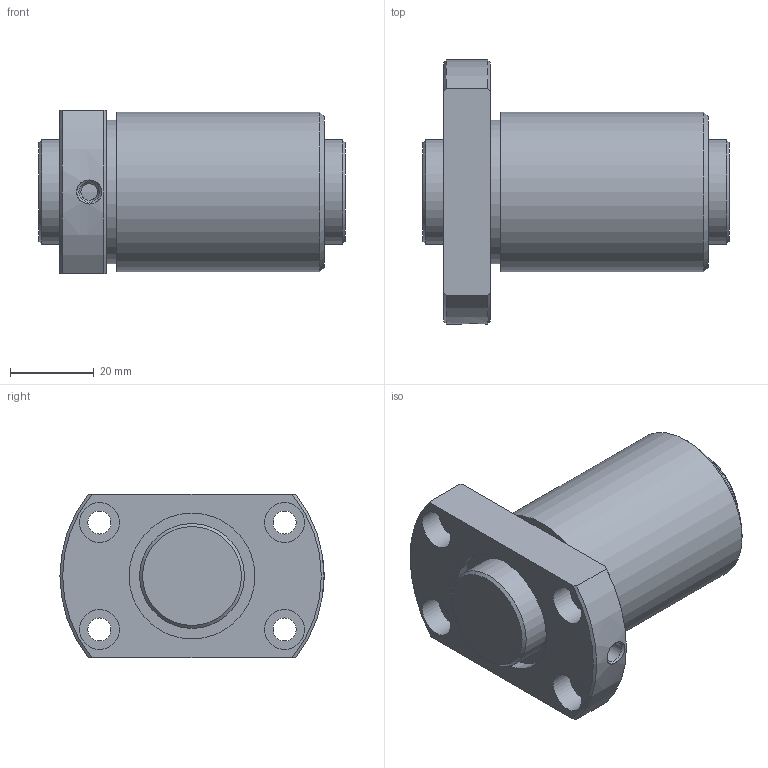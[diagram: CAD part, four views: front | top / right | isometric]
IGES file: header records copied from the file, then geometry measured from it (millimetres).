
Start section: Data from Parasolid IGES Translator 26.0.171, Copyright(c) 2006 Siemens PLM Software. All Rights Reserved.
Global section: file name: DIK2504-6RRG0+73LC0_000.igs; native system: By Siemens PLM Incorporated; preprocessor: XPlus GENERIC/IGES 26.0.171; author: Noname; organization: Noname; date: 20250113.094710; units: millimetre
Bounding box: 73 x 63 x 39 mm (x, y, z)
Surface area: 24846.4 mm2 (no closed solid volume)
Topology: 0 solids, 0 shells, 41 faces, 174 edges, 142 vertices
Faces by surface type: revolution 27, extrusion 14
